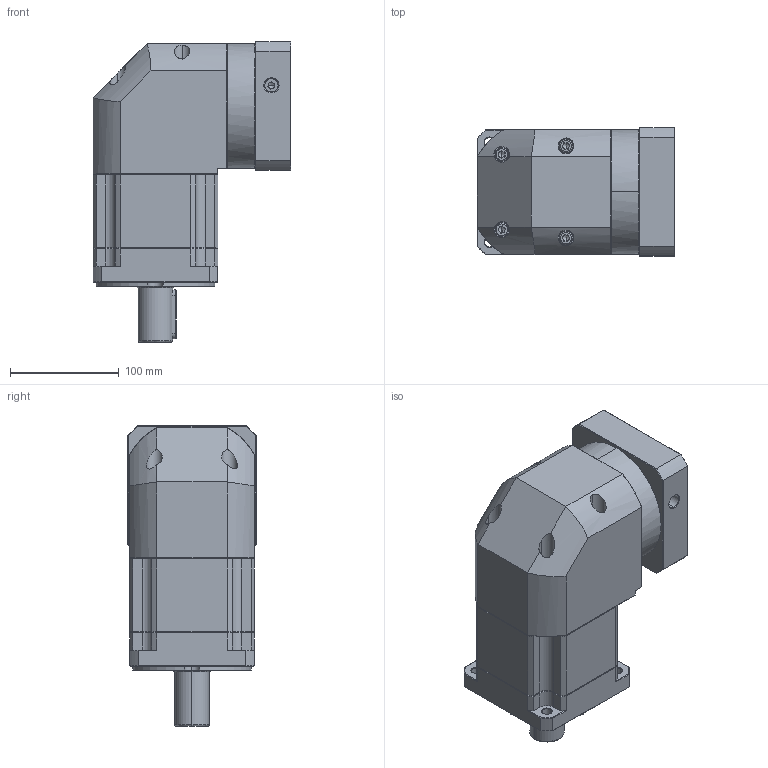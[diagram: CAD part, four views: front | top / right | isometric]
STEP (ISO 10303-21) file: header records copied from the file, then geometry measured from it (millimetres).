
FILE_DESCRIPTION (( 'STEP AP214' ), '1' );
FILE_NAME ('ZBR115A-D32-L2-P2-24-95-115-M6.step', '2023-08-26T12:39:12', ( '' ), ( '' ), 'SwSTEP 2.0', 'SolidWorks 2016', '' );
FILE_SCHEMA (( 'AUTOMOTIVE_DESIGN' ));
Length unit declared in the file: millimetre
Products named in the file (1): ZBR115A-D32-L2-P2-24-95-115-M6
Bounding box: 182.4 x 118 x 276.5 mm (x, y, z)
Volume: 3204262.7 mm3; surface area: 255706.4 mm2
Topology: 6 solids, 6 shells, 2367 faces, 6188 edges, 3924 vertices
Faces by surface type: plane 1138, bspline 428, cylinder 424, cone 369, torus 8
Entity records: 128557 total; most frequent: CARTESIAN_POINT 47935, ORIENTED_EDGE 12316, DIRECTION 9716, EDGE_CURVE 6158, VECTOR 3970, LINE 3970, VERTEX_POINT 3924, AXIS2_PLACEMENT_3D 2873
